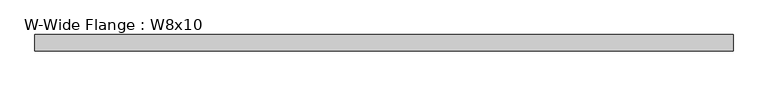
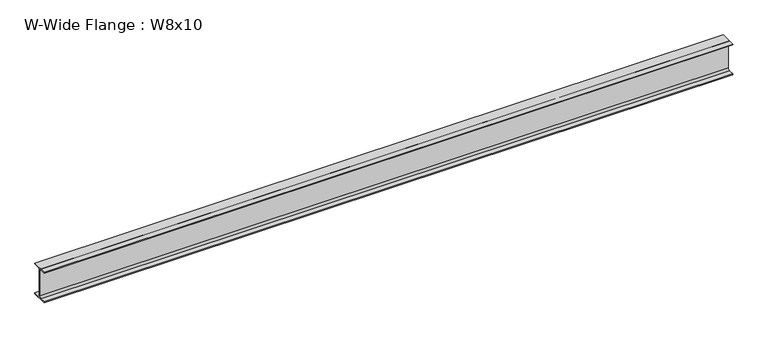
"""IFC4 building model written with IfcOpenShell, lengths in millimetres: beam geometry, W-Wide Flange : W8x10."""

import ifcopenshell
import ifcopenshell.guid

model = None  # the IFC model being written
_history = None  # IfcOwnerHistory: only IFC2X3 demands one
_inside = {}  # id of a spatial element -> (the spatial element, [elements in it])
_under = {}  # id of a project, library or spatial element -> (it, [spatial elements below it])
_declared = {}  # id of a project -> (the project, [libraries it declares])
_typed = {}  # id of a type object -> (the type object, [elements of that type])
_made_of = {}  # id of a material, layer set ... -> (it, [elements and type objects made of it])


def new_model(schema):
    """Start an empty IFC model of exactly this schema.

    Asked for "IFC4X3", IfcOpenShell would pick the latest addendum, in which some entities
    have other attributes; the version numbers below select the first issue.
    IFC2X3 requires an IfcOwnerHistory on every rooted entity: one is made here for all.
    """
    global model, _history
    if schema == "IFC4X3":
        model = ifcopenshell.file(schema_version=(4, 3, 0, 0))
    else:
        model = ifcopenshell.file(schema=schema)
    _inside.clear()
    _under.clear()
    _declared.clear()
    _typed.clear()
    _made_of.clear()
    _history = None
    if model.schema == "IFC2X3":
        org = make("IfcOrganization", Name="unknown")
        user = make(
            "IfcPersonAndOrganization",
            ThePerson=make("IfcPerson", FamilyName="unknown"),
            TheOrganization=org,
        )
        app = make(
            "IfcApplication",
            ApplicationDeveloper=org,
            Version="unknown",
            ApplicationFullName="unknown",
            ApplicationIdentifier="unknown",
        )
        _history = make(
            "IfcOwnerHistory",
            OwningUser=user,
            OwningApplication=app,
            ChangeAction="ADDED",
            CreationDate=0,
        )
    return model


def make(cls, **values):
    """One entity of the class cls with the attributes given. An attribute that is None is left unset."""
    return model.create_entity(
        cls, **{name: value for name, value in values.items() if value is not None}
    )


def rooted(cls, **values):
    """An entity with a GlobalId (a new one), such as an element, a storey or a relation."""
    return make(cls, GlobalId=ifcopenshell.guid.new(), OwnerHistory=_history, **values)


def si_unit(unit_type, name, prefix=None):
    """IfcSIUnit, for example si_unit("LENGTHUNIT", "METRE", prefix="MILLI")."""
    return make("IfcSIUnit", UnitType=unit_type, Prefix=prefix, Name=name)


def assignment(units):
    """IfcUnitAssignment: the units of a project."""
    return None if units is None else make("IfcUnitAssignment", Units=units)


def point(xyz):
    """IfcCartesianPoint."""
    return None if xyz is None else make("IfcCartesianPoint", Coordinates=xyz)


def direction(xyz):
    """IfcDirection."""
    return None if xyz is None else make("IfcDirection", DirectionRatios=xyz)


def frame(location, z_axis=None, x_axis=None):
    """IfcAxis2Placement3D, a coordinate frame: its origin and axes. An axis left out is left unset."""
    return make(
        "IfcAxis2Placement3D",
        Location=point(location),
        Axis=direction(z_axis),
        RefDirection=direction(x_axis),
    )


def frame_2d(location, x_axis=None):
    """IfcAxis2Placement2D, a coordinate frame in the plane: its origin and x axis."""
    return make(
        "IfcAxis2Placement2D", Location=point(location), RefDirection=direction(x_axis)
    )


def origin():
    """The frame at (0, 0, 0) with its axes left unset."""
    return frame((0.0, 0.0, 0.0))


def place(relative_to, where):
    """IfcLocalPlacement: puts the frame where relative to a parent placement (None: the world)."""
    return make(
        "IfcLocalPlacement", PlacementRelTo=relative_to, RelativePlacement=where
    )


def context(
    kind, dimensions, precision=None, world=None, true_north=None, identifier=None
):
    """IfcGeometricRepresentationContext, for example the 3D "Model" context."""
    return make(
        "IfcGeometricRepresentationContext",
        ContextIdentifier=identifier,
        ContextType=kind,
        CoordinateSpaceDimension=dimensions,
        Precision=precision,
        WorldCoordinateSystem=world,
        TrueNorth=true_north,
    )


def project(units=None, contexts=None):
    """IfcProject with its units and contexts."""
    return rooted(
        "IfcProject",
        Name="project",
        RepresentationContexts=contexts,
        UnitsInContext=assignment(units),
    )


def spatial(cls, under=None, at=None, **own):
    """A site, building, storey or space (cls), placed at a placement, below another one or the project."""
    s = rooted(cls, ObjectPlacement=at, **own)
    if under is not None:
        _under.setdefault(under.id(), (under, []))[1].append(s)
    return s


def polyline(points):
    """IfcPolyline through the points."""
    return make("IfcPolyline", Points=[point(p) for p in points])


def circle_curve(where, radius):
    """IfcCircle in the frame where."""
    return make("IfcCircle", Position=where, Radius=radius)


def trimmed(basis, trim1, trim2, sense, master):
    """IfcTrimmedCurve: the piece of a basis curve between two trims."""
    return make(
        "IfcTrimmedCurve",
        BasisCurve=basis,
        Trim1=trim1,
        Trim2=trim2,
        SenseAgreement=sense,
        MasterRepresentation=master,
    )


def segment(curve, same_sense, transition):
    """IfcCompositeCurveSegment."""
    return make(
        "IfcCompositeCurveSegment",
        Transition=transition,
        SameSense=same_sense,
        ParentCurve=curve,
    )


def composite_curve(segments, self_intersect=None):
    """IfcCompositeCurve: segments joined end to end."""
    return make("IfcCompositeCurve", Segments=segments, SelfIntersect=self_intersect)


def outline(outer, holes=None, kind="AREA"):
    """IfcArbitraryClosedProfileDef: a profile drawn as a closed curve; with holes, ...WithVoids."""
    if holes is None:
        return make("IfcArbitraryClosedProfileDef", ProfileType=kind, OuterCurve=outer)
    return make(
        "IfcArbitraryProfileDefWithVoids",
        ProfileType=kind,
        OuterCurve=outer,
        InnerCurves=holes,
    )


def extrude(swept, where, along, depth):
    """IfcExtrudedAreaSolid: the profile swept, set in the frame where, extruded along a direction by depth."""
    return make(
        "IfcExtrudedAreaSolid",
        SweptArea=swept,
        Position=where,
        ExtrudedDirection=direction(along),
        Depth=depth,
    )


def shape(context_of_items, identifier, shape_type, items):
    """IfcShapeRepresentation: the items that make up one representation, for example the "Body"."""
    return make(
        "IfcShapeRepresentation",
        ContextOfItems=context_of_items,
        RepresentationIdentifier=identifier,
        RepresentationType=shape_type,
        Items=items,
    )


def source(mapping_origin, context_of_items, identifier, shape_type, items):
    """IfcRepresentationMap: a shape defined once, which mapped items show again and again."""
    return make(
        "IfcRepresentationMap",
        MappingOrigin=mapping_origin,
        MappedRepresentation=shape(context_of_items, identifier, shape_type, items),
    )


def transform(
    local_origin,
    x_axis=None,
    y_axis=None,
    z_axis=None,
    scale=None,
    scale2=None,
    scale3=None,
    uniform=True,
):
    """IfcCartesianTransformationOperator3D, or its non-uniform kind. x_axis, y_axis, z_axis: its Axis1, 2, 3."""
    if uniform:
        return make(
            "IfcCartesianTransformationOperator3D",
            Axis1=direction(x_axis),
            Axis2=direction(y_axis),
            LocalOrigin=point(local_origin),
            Scale=scale,
            Axis3=direction(z_axis),
        )
    return make(
        "IfcCartesianTransformationOperator3DnonUniform",
        Axis1=direction(x_axis),
        Axis2=direction(y_axis),
        LocalOrigin=point(local_origin),
        Scale=scale,
        Axis3=direction(z_axis),
        Scale2=scale2,
        Scale3=scale3,
    )


def mapped(mapping_source, mapping_target):
    """IfcMappedItem: shows the shape of a source again, moved by a transform."""
    return make(
        "IfcMappedItem", MappingSource=mapping_source, MappingTarget=mapping_target
    )


def made_of(thing, what):
    """Note that an element or type object is made of a material, layer set ...; save() writes the relation."""
    if what is not None:
        _made_of.setdefault(what.id(), (what, []))[1].append(thing)
    return thing


def element(
    cls,
    number,
    at=None,
    inside=None,
    cuts=None,
    type_object=None,
    material=None,
    context=None,
    identifier="Body",
    shape_type=None,
    held_by="IfcProductDefinitionShape",
    body=None,
    shapes=None,
    **own,
):
    """One element of the class cls, such as IfcWall. Its Tag is "e" and its number.

    at: its placement. inside: the storey or other place that contains it. cuts: it is an
    opening in that element (IfcRelVoidsElement). A single representation is given by context,
    identifier, shape_type and body (its items); several are given by shapes. held_by: the class
    of the entity that holds the representations. save() writes the other relations.
    """
    e = rooted(cls, Tag="e%d" % number, ObjectPlacement=at, **own)
    if body is not None:
        shapes = [shape(context, identifier, shape_type, body)]
    if shapes is not None:
        e.Representation = make(held_by, Representations=shapes)
    if inside is not None:
        _inside.setdefault(inside.id(), (inside, []))[1].append(e)
    if cuts is not None:
        rooted(
            "IfcRelVoidsElement", RelatingBuildingElement=cuts, RelatedOpeningElement=e
        )
    if type_object is not None:
        _typed.setdefault(type_object.id(), (type_object, []))[1].append(e)
    return made_of(e, material)


def aggregate(whole, parts):
    """IfcRelAggregates: a whole, such as a stair, and the parts it consists of."""
    return rooted("IfcRelAggregates", RelatingObject=whole, RelatedObjects=parts)


def save(model, path):
    """Write the relations noted so far, then the file.

    IfcRelAggregates (storeys below a building ...), IfcRelContainedInSpatialStructure (elements
    in a storey), IfcRelDefinesByType, IfcRelAssociatesMaterial and IfcRelDeclares: one each for
    every whole, place, type object, material and project.
    """
    for whole, parts in _under.values():
        aggregate(whole, parts)
    for where, things in _inside.values():
        rooted(
            "IfcRelContainedInSpatialStructure",
            RelatedElements=things,
            RelatingStructure=where,
        )
    for kind, things in _typed.values():
        rooted("IfcRelDefinesByType", RelatedObjects=things, RelatingType=kind)
    for what, things in _made_of.values():
        rooted("IfcRelAssociatesMaterial", RelatedObjects=things, RelatingMaterial=what)
    for by, libraries in _declared.values():
        rooted("IfcRelDeclares", RelatingContext=by, RelatedDefinitions=libraries)
    model.write(path)


def w_wide_flange_w8x10_7498d693(model_context):
    return source(origin(), model_context, "Body", "SweptSolid", [
        extrude(outline(composite_curve([segment(polyline([(50.038, -94.996), (50.038, -100.203), (-50.038, -100.203), (-50.038, -94.996), (-14.4145, -94.996)]), True, "CONTINUOUS"), segment(trimmed(circle_curve(frame_2d((-14.4145, -82.7405)), 12.2555), [point((-14.4145, -94.996))], [point((-2.159, -82.7405))], True, "CARTESIAN"), True, "CONTINUOUS"), segment(polyline([(-2.159, -82.7405), (-2.159, 82.7405)]), True, "CONTINUOUS"), segment(trimmed(circle_curve(frame_2d((-14.4145, 82.7405)), 12.2555), [point((-2.159, 82.7405))], [point((-14.4145, 94.996))], True, "CARTESIAN"), True, "CONTINUOUS"), segment(polyline([(-14.4145, 94.996), (-50.038, 94.996), (-50.038, 100.203), (50.038, 100.203), (50.038, 94.996), (14.4145, 94.996)]), True, "CONTINUOUS"), segment(trimmed(circle_curve(frame_2d((14.4145, 82.7405)), 12.2555), [point((14.4145, 94.996))], [point((2.159, 82.7405))], True, "CARTESIAN"), True, "CONTINUOUS"), segment(polyline([(2.159, 82.7405), (2.159, -82.7405)]), True, "CONTINUOUS"), segment(trimmed(circle_curve(frame_2d((14.4145, -82.7405)), 12.2555), [point((2.159, -82.7405))], [point((14.4145, -94.996))], True, "CARTESIAN"), True, "CONTINUOUS"), segment(polyline([(14.4145, -94.996), (50.038, -94.996)]), True, "CONTINUOUS")], self_intersect=False)), frame((-2139.95, 0.0, 0.0), z_axis=(1.0, 0.0, 0.0), x_axis=(0.0, 1.0, 0.0)), (0.0, 0.0, 1.0), 4279.9),
    ])


if __name__ == "__main__":
    model = new_model("IFC4")
    model_context = context("Model", 3, world=origin())
    ifc_project = project(units=[si_unit("LENGTHUNIT", "METRE", prefix="MILLI")], contexts=[model_context])
    site = spatial("IfcSite", under=ifc_project)
    building = spatial("IfcBuilding", under=site)
    placement = place(None, origin())
    w_wide_flange_w8x10_shape = w_wide_flange_w8x10_7498d693(model_context)
    element("IfcBeam", 1, ObjectType="W-Wide Flange : W8x10", at=placement, inside=building, context=model_context, shape_type="MappedRepresentation", body=[
        mapped(w_wide_flange_w8x10_shape, transform((0.0, 0.0, 0.0), x_axis=(1.0, 0.0, 0.0), y_axis=(0.0, 1.0, 0.0), z_axis=(0.0, 0.0, 1.0))),
    ])
    save(model, "model.ifc")
